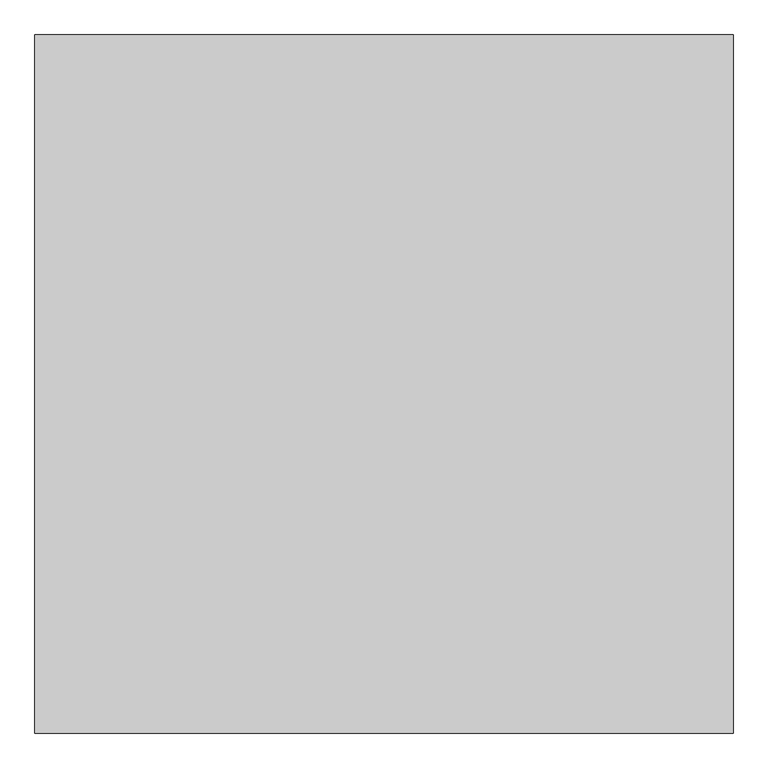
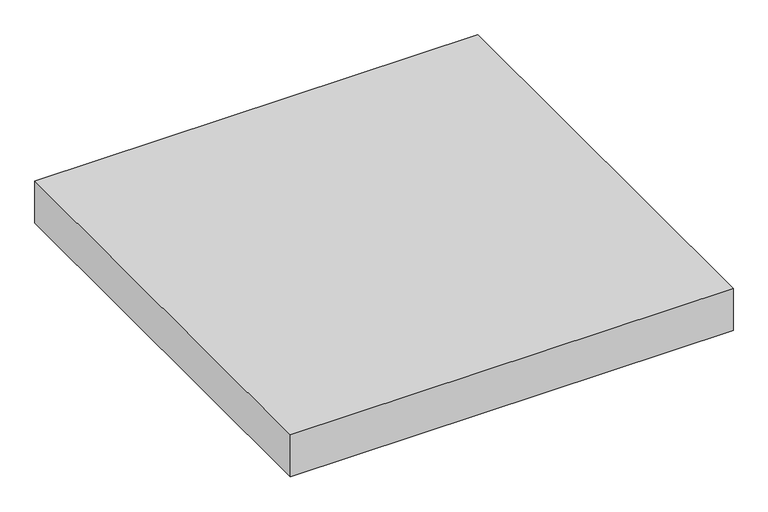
"""IFC4 building model written with IfcOpenShell, lengths in millimetres: proxy geometry, Modelos genéricos 23 : Modelos genéricos 1."""

from ifc_helpers import new_model, si_unit, origin, origin_with_axes, place, context, project, spatial, polyline, outline, extrude, source, transform, mapped, element, save


def generic_models_f42c9dbd(model_context):
    return source(origin(), model_context, "Body", "SweptSolid", [
        extrude(outline(polyline([(6809.3973641, 8954.287186), (6809.3973641, 7454.287186), (5309.3973641, 7454.287186), (5309.3973641, 8954.287186), (6809.3973641, 8954.287186)])), origin_with_axes(), (0.0, 0.0, 1.0), 150.0),
    ])


if __name__ == "__main__":
    model = new_model("IFC4")
    model_context = context("Model", 3, world=origin())
    ifc_project = project(units=[si_unit("LENGTHUNIT", "METRE", prefix="MILLI")], contexts=[model_context])
    site = spatial("IfcSite", under=ifc_project)
    building = spatial("IfcBuilding", under=site)
    placement = place(None, origin())
    generic_models_shape = generic_models_f42c9dbd(model_context)
    element("IfcBuildingElementProxy", 1, Name="Modelos genéricos 23 : Modelos genéricos 1", ObjectType="Modelos genéricos 23 : Modelos genéricos 1", at=placement, inside=building, context=model_context, shape_type="MappedRepresentation", body=[
        mapped(generic_models_shape, transform((0.0, 0.0, 0.0), x_axis=(1.0, 0.0, 0.0), y_axis=(0.0, 1.0, 0.0), z_axis=(0.0, 0.0, 1.0))),
    ])
    save(model, "model.ifc")
